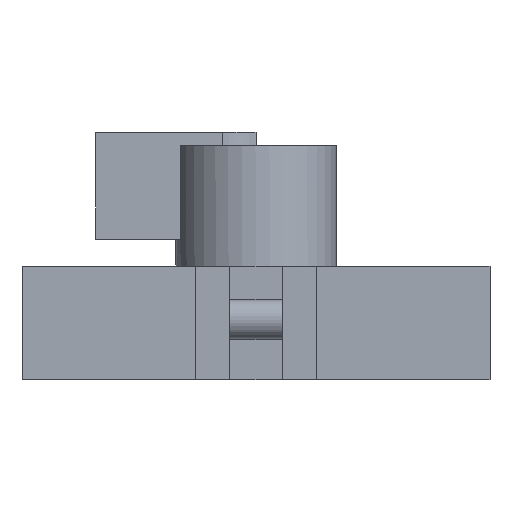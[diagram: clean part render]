
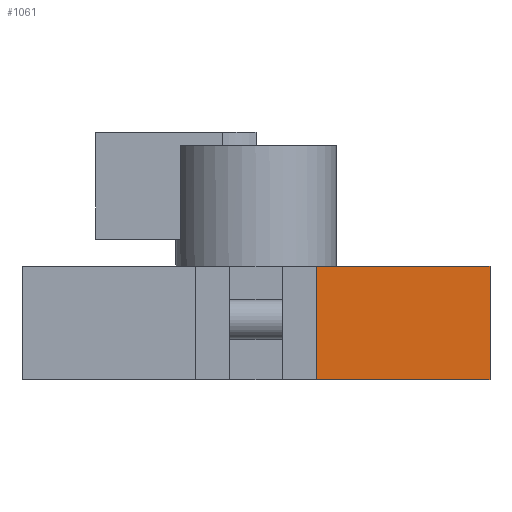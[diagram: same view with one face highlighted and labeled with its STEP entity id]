
A CAD part, front view. The second image highlights one B-rep face of the part: STEP entity #1061.
In plain terms, the highlighted planar face has unit normal (0, -1, 0).
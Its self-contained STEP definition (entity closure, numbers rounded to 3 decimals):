
#31 = PLANE('',#32);
#32 = AXIS2_PLACEMENT_3D('',#33,#34,#35);
#33 = CARTESIAN_POINT('',(4.,-4.5,-6.));
#34 = DIRECTION('',(0.,0.,1.));
#35 = DIRECTION('',(1.,0.,0.));
#62 = VERTEX_POINT('',#63);
#63 = CARTESIAN_POINT('',(4.5,-4.5,-6.));
#79 = PLANE('',#80);
#80 = AXIS2_PLACEMENT_3D('',#81,#82,#83);
#81 = CARTESIAN_POINT('',(4.5,-4.,-14.5));
#82 = DIRECTION('',(1.,0.,0.));
#83 = DIRECTION('',(0.,0.,1.));
#91 = EDGE_CURVE('',#62,#92,#94,.T.);
#92 = VERTEX_POINT('',#93);
#93 = CARTESIAN_POINT('',(17.5,-4.5,-6.));
#94 = SURFACE_CURVE('',#95,(#99,#106),.PCURVE_S1.);
#95 = LINE('',#96,#97);
#96 = CARTESIAN_POINT('',(4.,-4.5,-6.));
#97 = VECTOR('',#98,1.);
#98 = DIRECTION('',(1.,0.,0.));
#99 = PCURVE('',#31,#100);
#100 = DEFINITIONAL_REPRESENTATION('',(#101),#105);
#101 = LINE('',#102,#103);
#102 = CARTESIAN_POINT('',(0.,0.));
#103 = VECTOR('',#104,1.);
#104 = DIRECTION('',(1.,0.));
#105 = ( GEOMETRIC_REPRESENTATION_CONTEXT(2) 
PARAMETRIC_REPRESENTATION_CONTEXT() REPRESENTATION_CONTEXT('2D SPACE',''
  ) );
#106 = PCURVE('',#107,#112);
#107 = PLANE('',#108);
#108 = AXIS2_PLACEMENT_3D('',#109,#110,#111);
#109 = CARTESIAN_POINT('',(4.,-4.5,-14.5));
#110 = DIRECTION('',(0.,1.,0.));
#111 = DIRECTION('',(0.,0.,1.));
#112 = DEFINITIONAL_REPRESENTATION('',(#113),#117);
#113 = LINE('',#114,#115);
#114 = CARTESIAN_POINT('',(8.5,0.));
#115 = VECTOR('',#116,1.);
#116 = DIRECTION('',(0.,1.));
#117 = ( GEOMETRIC_REPRESENTATION_CONTEXT(2) 
PARAMETRIC_REPRESENTATION_CONTEXT() REPRESENTATION_CONTEXT('2D SPACE',''
  ) );
#135 = PLANE('',#136);
#136 = AXIS2_PLACEMENT_3D('',#137,#138,#139);
#137 = CARTESIAN_POINT('',(17.5,-4.5,-14.5));
#138 = DIRECTION('',(1.,0.,0.));
#139 = DIRECTION('',(0.,0.,1.));
#992 = VERTEX_POINT('',#993);
#993 = CARTESIAN_POINT('',(4.5,-4.5,-14.5));
#1009 = PLANE('',#1010);
#1010 = AXIS2_PLACEMENT_3D('',#1011,#1012,#1013);
#1011 = CARTESIAN_POINT('',(-4.5,-4.,-14.5));
#1012 = DIRECTION('',(0.,0.,1.));
#1013 = DIRECTION('',(0.,-1.,0.));
#1021 = EDGE_CURVE('',#62,#992,#1022,.T.);
#1022 = SURFACE_CURVE('',#1023,(#1027,#1033),.PCURVE_S1.);
#1023 = LINE('',#1024,#1025);
#1024 = CARTESIAN_POINT('',(4.5,-4.5,-14.5));
#1025 = VECTOR('',#1026,1.);
#1026 = DIRECTION('',(0.,0.,-1.));
#1027 = PCURVE('',#79,#1028);
#1028 = DEFINITIONAL_REPRESENTATION('',(#1029),#1032);
#1029 = B_SPLINE_CURVE_WITH_KNOTS('',1,(#1030,#1031),.UNSPECIFIED.,.F.,
  .F.,(2,2),(-8.5,0.),.PIECEWISE_BEZIER_KNOTS.);
#1030 = CARTESIAN_POINT('',(8.5,0.5));
#1031 = CARTESIAN_POINT('',(0.,0.5));
#1032 = ( GEOMETRIC_REPRESENTATION_CONTEXT(2) 
PARAMETRIC_REPRESENTATION_CONTEXT() REPRESENTATION_CONTEXT('2D SPACE',''
  ) );
#1033 = PCURVE('',#107,#1034);
#1034 = DEFINITIONAL_REPRESENTATION('',(#1035),#1038);
#1035 = B_SPLINE_CURVE_WITH_KNOTS('',1,(#1036,#1037),.UNSPECIFIED.,.F.,
  .F.,(2,2),(-8.5,0.),.PIECEWISE_BEZIER_KNOTS.);
#1036 = CARTESIAN_POINT('',(8.5,0.5));
#1037 = CARTESIAN_POINT('',(0.,0.5));
#1038 = ( GEOMETRIC_REPRESENTATION_CONTEXT(2) 
PARAMETRIC_REPRESENTATION_CONTEXT() REPRESENTATION_CONTEXT('2D SPACE',''
  ) );
#1061 = ADVANCED_FACE('',(#1062),#107,.F.);
#1062 = FACE_BOUND('',#1063,.F.);
#1063 = EDGE_LOOP('',(#1064,#1087,#1088,#1089));
#1064 = ORIENTED_EDGE('',*,*,#1065,.F.);
#1065 = EDGE_CURVE('',#992,#1066,#1068,.T.);
#1066 = VERTEX_POINT('',#1067);
#1067 = CARTESIAN_POINT('',(17.5,-4.5,-14.5));
#1068 = SURFACE_CURVE('',#1069,(#1073,#1080),.PCURVE_S1.);
#1069 = LINE('',#1070,#1071);
#1070 = CARTESIAN_POINT('',(4.,-4.5,-14.5));
#1071 = VECTOR('',#1072,1.);
#1072 = DIRECTION('',(1.,0.,0.));
#1073 = PCURVE('',#107,#1074);
#1074 = DEFINITIONAL_REPRESENTATION('',(#1075),#1079);
#1075 = LINE('',#1076,#1077);
#1076 = CARTESIAN_POINT('',(0.,0.));
#1077 = VECTOR('',#1078,1.);
#1078 = DIRECTION('',(0.,1.));
#1079 = ( GEOMETRIC_REPRESENTATION_CONTEXT(2) 
PARAMETRIC_REPRESENTATION_CONTEXT() REPRESENTATION_CONTEXT('2D SPACE',''
  ) );
#1080 = PCURVE('',#1009,#1081);
#1081 = DEFINITIONAL_REPRESENTATION('',(#1082),#1086);
#1082 = LINE('',#1083,#1084);
#1083 = CARTESIAN_POINT('',(0.5,8.5));
#1084 = VECTOR('',#1085,1.);
#1085 = DIRECTION('',(0.,1.));
#1086 = ( GEOMETRIC_REPRESENTATION_CONTEXT(2) 
PARAMETRIC_REPRESENTATION_CONTEXT() REPRESENTATION_CONTEXT('2D SPACE',''
  ) );
#1087 = ORIENTED_EDGE('',*,*,#1021,.F.);
#1088 = ORIENTED_EDGE('',*,*,#91,.T.);
#1089 = ORIENTED_EDGE('',*,*,#1090,.F.);
#1090 = EDGE_CURVE('',#1066,#92,#1091,.T.);
#1091 = SURFACE_CURVE('',#1092,(#1096,#1103),.PCURVE_S1.);
#1092 = LINE('',#1093,#1094);
#1093 = CARTESIAN_POINT('',(17.5,-4.5,-14.5));
#1094 = VECTOR('',#1095,1.);
#1095 = DIRECTION('',(0.,0.,1.));
#1096 = PCURVE('',#107,#1097);
#1097 = DEFINITIONAL_REPRESENTATION('',(#1098),#1102);
#1098 = LINE('',#1099,#1100);
#1099 = CARTESIAN_POINT('',(0.,13.5));
#1100 = VECTOR('',#1101,1.);
#1101 = DIRECTION('',(1.,0.));
#1102 = ( GEOMETRIC_REPRESENTATION_CONTEXT(2) 
PARAMETRIC_REPRESENTATION_CONTEXT() REPRESENTATION_CONTEXT('2D SPACE',''
  ) );
#1103 = PCURVE('',#135,#1104);
#1104 = DEFINITIONAL_REPRESENTATION('',(#1105),#1109);
#1105 = LINE('',#1106,#1107);
#1106 = CARTESIAN_POINT('',(0.,0.));
#1107 = VECTOR('',#1108,1.);
#1108 = DIRECTION('',(1.,0.));
#1109 = ( GEOMETRIC_REPRESENTATION_CONTEXT(2) 
PARAMETRIC_REPRESENTATION_CONTEXT() REPRESENTATION_CONTEXT('2D SPACE',''
  ) );
